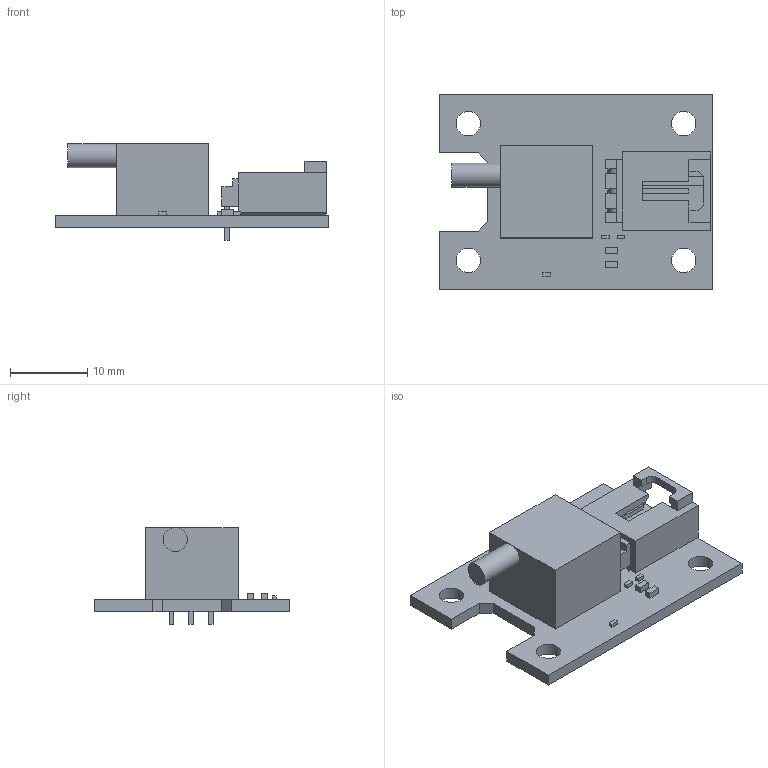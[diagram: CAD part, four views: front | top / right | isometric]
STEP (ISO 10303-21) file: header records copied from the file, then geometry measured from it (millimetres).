
FILE_DESCRIPTION(('Open CASCADE Model'),'2;1');
FILE_NAME('Open CASCADE Shape Model','2012-01-13T11:59:50',('Author'),( 'Open CASCADE'),'Open CASCADE STEP processor 6.2','Open CASCADE 6.2' ,'Unknown');
FILE_SCHEMA(('AUTOMOTIVE_DESIGN { 1 0 10303 214 1 1 1 1 }'));
Length unit declared in the file: millimetre
Products named in the file (20): PCB; Board; R2; 507755072; Extruded; R1; 507754560; C2; J1; 705530002; Open CASCADE STEP translator 6.2 29.5.1.1; Open CASCADE STEP translator 6.2 29.5.1.2; U1; 507726032; Cylinder; 507755328; C1; C3
Assembly tree (22 placements, depth 4):
  PCB
    Board
    R2
      507755072
        Extruded
    R1
      507754560
        Extruded
    C2
      507755072
        Extruded
    J1
      705530002
        Open CASCADE STEP translator 6.2 29.5.1.1
        Open CASCADE STEP translator 6.2 29.5.1.2
    U1
      507726032
        Cylinder
      507755328
        Extruded
    C1
      507754560
        Extruded
    C3
      507754560
        Extruded
Bounding box: 35.56 x 25.4 x 12.58 mm (x, y, z)
Volume: 3070.6 mm3; surface area: 3527.5 mm2
Topology: 9 solids, 9 shells, 171 faces, 440 edges, 298 vertices
Faces by surface type: plane 155, cylinder 16
Full cylindrical faces by diameter (mm): 0.965 x3, 3.12 x1, 3.175 x4
Entity records: 10215 total; most frequent: CARTESIAN_POINT 1726, DIRECTION 1542, LINE 1090, VECTOR 1090, ORIENTED_EDGE 790, PCURVE 790, DEFINITIONAL_REPRESENTATION 790, EDGE_CURVE 395
